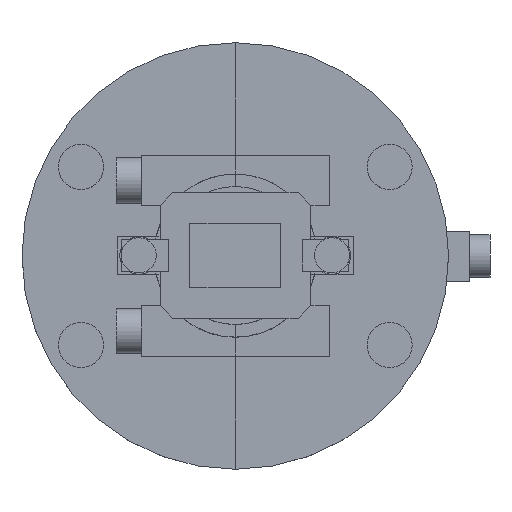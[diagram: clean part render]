
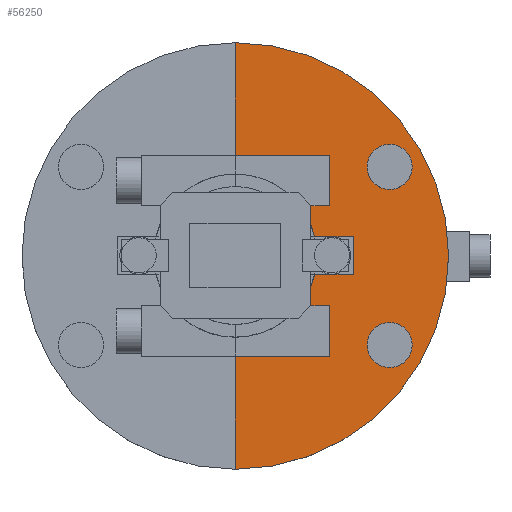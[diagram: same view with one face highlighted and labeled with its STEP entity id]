
A CAD part, top view. The second image highlights one B-rep face of the part: STEP entity #56250.
In plain terms, the highlighted planar face has unit normal (0, 0, 1).
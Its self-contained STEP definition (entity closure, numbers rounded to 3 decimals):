
#54003 = PLANE('',#54004);
#54004 = AXIS2_PLACEMENT_3D('',#54005,#54006,#54007);
#54005 = CARTESIAN_POINT('',(0.,-60.,-70.));
#54006 = DIRECTION('',(1.,0.,0.));
#54007 = DIRECTION('',(0.,0.,1.));
#54117 = PLANE('',#54118);
#54118 = AXIS2_PLACEMENT_3D('',#54119,#54120,#54121);
#54119 = CARTESIAN_POINT('',(0.,-60.,-70.));
#54120 = DIRECTION('',(1.,0.,0.));
#54121 = DIRECTION('',(0.,0.,1.));
#54962 = VERTEX_POINT('',#54963);
#54963 = CARTESIAN_POINT('',(0.,17.,3.));
#54977 = CYLINDRICAL_SURFACE('',#54978,17.);
#54978 = AXIS2_PLACEMENT_3D('',#54979,#54980,#54981);
#54979 = CARTESIAN_POINT('',(0.,0.,1.5));
#54980 = DIRECTION('',(0.,0.,1.));
#54981 = DIRECTION('',(1.,0.,-0.));
#54988 = EDGE_CURVE('',#54989,#54962,#54991,.T.);
#54989 = VERTEX_POINT('',#54990);
#54990 = CARTESIAN_POINT('',(0.,6.5,3.));
#54991 = SURFACE_CURVE('',#54992,(#54996,#55003),.PCURVE_S1.);
#54992 = LINE('',#54993,#54994);
#54993 = CARTESIAN_POINT('',(0.,-30.,3.));
#54994 = VECTOR('',#54995,1.);
#54995 = DIRECTION('',(0.,1.,0.));
#54996 = PCURVE('',#54003,#54997);
#54997 = DEFINITIONAL_REPRESENTATION('',(#54998),#55002);
#54998 = LINE('',#54999,#55000);
#54999 = CARTESIAN_POINT('',(73.,-30.));
#55000 = VECTOR('',#55001,1.);
#55001 = DIRECTION('',(0.,-1.));
#55002 = ( GEOMETRIC_REPRESENTATION_CONTEXT(2) 
PARAMETRIC_REPRESENTATION_CONTEXT() REPRESENTATION_CONTEXT('2D SPACE',''
  ) );
#55003 = PCURVE('',#55004,#55009);
#55004 = PLANE('',#55005);
#55005 = AXIS2_PLACEMENT_3D('',#55006,#55007,#55008);
#55006 = CARTESIAN_POINT('',(0.,0.,3.));
#55007 = DIRECTION('',(0.,0.,1.));
#55008 = DIRECTION('',(1.,0.,-0.));
#55009 = DEFINITIONAL_REPRESENTATION('',(#55010),#55014);
#55010 = LINE('',#55011,#55012);
#55011 = CARTESIAN_POINT('',(0.,-30.));
#55012 = VECTOR('',#55013,1.);
#55013 = DIRECTION('',(0.,1.));
#55014 = ( GEOMETRIC_REPRESENTATION_CONTEXT(2) 
PARAMETRIC_REPRESENTATION_CONTEXT() REPRESENTATION_CONTEXT('2D SPACE',''
  ) );
#55030 = CYLINDRICAL_SURFACE('',#55031,6.5);
#55031 = AXIS2_PLACEMENT_3D('',#55032,#55033,#55034);
#55032 = CARTESIAN_POINT('',(0.,0.,1.5));
#55033 = DIRECTION('',(0.,0.,1.));
#55034 = DIRECTION('',(1.,0.,-0.));
#55164 = CYLINDRICAL_SURFACE('',#55165,6.5);
#55165 = AXIS2_PLACEMENT_3D('',#55166,#55167,#55168);
#55166 = CARTESIAN_POINT('',(0.,0.,1.5));
#55167 = DIRECTION('',(0.,0.,1.));
#55168 = DIRECTION('',(1.,0.,-0.));
#55182 = VERTEX_POINT('',#55183);
#55183 = CARTESIAN_POINT('',(0.,-6.5,3.));
#55203 = EDGE_CURVE('',#55204,#55182,#55206,.T.);
#55204 = VERTEX_POINT('',#55205);
#55205 = CARTESIAN_POINT('',(0.,-17.,3.));
#55206 = SURFACE_CURVE('',#55207,(#55211,#55218),.PCURVE_S1.);
#55207 = LINE('',#55208,#55209);
#55208 = CARTESIAN_POINT('',(0.,-30.,3.));
#55209 = VECTOR('',#55210,1.);
#55210 = DIRECTION('',(0.,1.,0.));
#55211 = PCURVE('',#54117,#55212);
#55212 = DEFINITIONAL_REPRESENTATION('',(#55213),#55217);
#55213 = LINE('',#55214,#55215);
#55214 = CARTESIAN_POINT('',(73.,-30.));
#55215 = VECTOR('',#55216,1.);
#55216 = DIRECTION('',(0.,-1.));
#55217 = ( GEOMETRIC_REPRESENTATION_CONTEXT(2) 
PARAMETRIC_REPRESENTATION_CONTEXT() REPRESENTATION_CONTEXT('2D SPACE',''
  ) );
#55218 = PCURVE('',#55004,#55219);
#55219 = DEFINITIONAL_REPRESENTATION('',(#55220),#55224);
#55220 = LINE('',#55221,#55222);
#55221 = CARTESIAN_POINT('',(0.,-30.));
#55222 = VECTOR('',#55223,1.);
#55223 = DIRECTION('',(0.,1.));
#55224 = ( GEOMETRIC_REPRESENTATION_CONTEXT(2) 
PARAMETRIC_REPRESENTATION_CONTEXT() REPRESENTATION_CONTEXT('2D SPACE',''
  ) );
#55242 = CYLINDRICAL_SURFACE('',#55243,17.);
#55243 = AXIS2_PLACEMENT_3D('',#55244,#55245,#55246);
#55244 = CARTESIAN_POINT('',(0.,0.,1.5));
#55245 = DIRECTION('',(0.,0.,1.));
#55246 = DIRECTION('',(1.,0.,-0.));
#56205 = VERTEX_POINT('',#56206);
#56206 = CARTESIAN_POINT('',(6.5,0.,3.));
#56227 = EDGE_CURVE('',#56205,#54989,#56228,.T.);
#56228 = SURFACE_CURVE('',#56229,(#56234,#56241),.PCURVE_S1.);
#56229 = CIRCLE('',#56230,6.5);
#56230 = AXIS2_PLACEMENT_3D('',#56231,#56232,#56233);
#56231 = CARTESIAN_POINT('',(0.,0.,3.));
#56232 = DIRECTION('',(0.,0.,1.));
#56233 = DIRECTION('',(1.,0.,-0.));
#56234 = PCURVE('',#55030,#56235);
#56235 = DEFINITIONAL_REPRESENTATION('',(#56236),#56240);
#56236 = LINE('',#56237,#56238);
#56237 = CARTESIAN_POINT('',(0.,1.5));
#56238 = VECTOR('',#56239,1.);
#56239 = DIRECTION('',(1.,0.));
#56240 = ( GEOMETRIC_REPRESENTATION_CONTEXT(2) 
PARAMETRIC_REPRESENTATION_CONTEXT() REPRESENTATION_CONTEXT('2D SPACE',''
  ) );
#56241 = PCURVE('',#55004,#56242);
#56242 = DEFINITIONAL_REPRESENTATION('',(#56243),#56247);
#56243 = CIRCLE('',#56244,6.5);
#56244 = AXIS2_PLACEMENT_2D('',#56245,#56246);
#56245 = CARTESIAN_POINT('',(0.,0.));
#56246 = DIRECTION('',(1.,0.));
#56247 = ( GEOMETRIC_REPRESENTATION_CONTEXT(2) 
PARAMETRIC_REPRESENTATION_CONTEXT() REPRESENTATION_CONTEXT('2D SPACE',''
  ) );
#56250 = ADVANCED_FACE('',(#56251,#56324,#56355),#55004,.T.);
#56251 = FACE_BOUND('',#56252,.T.);
#56252 = EDGE_LOOP('',(#56253,#56277,#56299,#56300,#56301,#56323));
#56253 = ORIENTED_EDGE('',*,*,#56254,.T.);
#56254 = EDGE_CURVE('',#55204,#56255,#56257,.T.);
#56255 = VERTEX_POINT('',#56256);
#56256 = CARTESIAN_POINT('',(17.,0.,3.));
#56257 = SURFACE_CURVE('',#56258,(#56263,#56270),.PCURVE_S1.);
#56258 = CIRCLE('',#56259,17.);
#56259 = AXIS2_PLACEMENT_3D('',#56260,#56261,#56262);
#56260 = CARTESIAN_POINT('',(0.,0.,3.));
#56261 = DIRECTION('',(0.,0.,1.));
#56262 = DIRECTION('',(1.,0.,-0.));
#56263 = PCURVE('',#55004,#56264);
#56264 = DEFINITIONAL_REPRESENTATION('',(#56265),#56269);
#56265 = CIRCLE('',#56266,17.);
#56266 = AXIS2_PLACEMENT_2D('',#56267,#56268);
#56267 = CARTESIAN_POINT('',(0.,0.));
#56268 = DIRECTION('',(1.,0.));
#56269 = ( GEOMETRIC_REPRESENTATION_CONTEXT(2) 
PARAMETRIC_REPRESENTATION_CONTEXT() REPRESENTATION_CONTEXT('2D SPACE',''
  ) );
#56270 = PCURVE('',#55242,#56271);
#56271 = DEFINITIONAL_REPRESENTATION('',(#56272),#56276);
#56272 = LINE('',#56273,#56274);
#56273 = CARTESIAN_POINT('',(0.,1.5));
#56274 = VECTOR('',#56275,1.);
#56275 = DIRECTION('',(1.,0.));
#56276 = ( GEOMETRIC_REPRESENTATION_CONTEXT(2) 
PARAMETRIC_REPRESENTATION_CONTEXT() REPRESENTATION_CONTEXT('2D SPACE',''
  ) );
#56277 = ORIENTED_EDGE('',*,*,#56278,.T.);
#56278 = EDGE_CURVE('',#56255,#54962,#56279,.T.);
#56279 = SURFACE_CURVE('',#56280,(#56285,#56292),.PCURVE_S1.);
#56280 = CIRCLE('',#56281,17.);
#56281 = AXIS2_PLACEMENT_3D('',#56282,#56283,#56284);
#56282 = CARTESIAN_POINT('',(0.,0.,3.));
#56283 = DIRECTION('',(0.,0.,1.));
#56284 = DIRECTION('',(1.,0.,-0.));
#56285 = PCURVE('',#55004,#56286);
#56286 = DEFINITIONAL_REPRESENTATION('',(#56287),#56291);
#56287 = CIRCLE('',#56288,17.);
#56288 = AXIS2_PLACEMENT_2D('',#56289,#56290);
#56289 = CARTESIAN_POINT('',(0.,0.));
#56290 = DIRECTION('',(1.,0.));
#56291 = ( GEOMETRIC_REPRESENTATION_CONTEXT(2) 
PARAMETRIC_REPRESENTATION_CONTEXT() REPRESENTATION_CONTEXT('2D SPACE',''
  ) );
#56292 = PCURVE('',#54977,#56293);
#56293 = DEFINITIONAL_REPRESENTATION('',(#56294),#56298);
#56294 = LINE('',#56295,#56296);
#56295 = CARTESIAN_POINT('',(0.,1.5));
#56296 = VECTOR('',#56297,1.);
#56297 = DIRECTION('',(1.,0.));
#56298 = ( GEOMETRIC_REPRESENTATION_CONTEXT(2) 
PARAMETRIC_REPRESENTATION_CONTEXT() REPRESENTATION_CONTEXT('2D SPACE',''
  ) );
#56299 = ORIENTED_EDGE('',*,*,#54988,.F.);
#56300 = ORIENTED_EDGE('',*,*,#56227,.F.);
#56301 = ORIENTED_EDGE('',*,*,#56302,.F.);
#56302 = EDGE_CURVE('',#55182,#56205,#56303,.T.);
#56303 = SURFACE_CURVE('',#56304,(#56309,#56316),.PCURVE_S1.);
#56304 = CIRCLE('',#56305,6.5);
#56305 = AXIS2_PLACEMENT_3D('',#56306,#56307,#56308);
#56306 = CARTESIAN_POINT('',(0.,0.,3.));
#56307 = DIRECTION('',(0.,0.,1.));
#56308 = DIRECTION('',(1.,0.,-0.));
#56309 = PCURVE('',#55004,#56310);
#56310 = DEFINITIONAL_REPRESENTATION('',(#56311),#56315);
#56311 = CIRCLE('',#56312,6.5);
#56312 = AXIS2_PLACEMENT_2D('',#56313,#56314);
#56313 = CARTESIAN_POINT('',(0.,0.));
#56314 = DIRECTION('',(1.,0.));
#56315 = ( GEOMETRIC_REPRESENTATION_CONTEXT(2) 
PARAMETRIC_REPRESENTATION_CONTEXT() REPRESENTATION_CONTEXT('2D SPACE',''
  ) );
#56316 = PCURVE('',#55164,#56317);
#56317 = DEFINITIONAL_REPRESENTATION('',(#56318),#56322);
#56318 = LINE('',#56319,#56320);
#56319 = CARTESIAN_POINT('',(0.,1.5));
#56320 = VECTOR('',#56321,1.);
#56321 = DIRECTION('',(1.,0.));
#56322 = ( GEOMETRIC_REPRESENTATION_CONTEXT(2) 
PARAMETRIC_REPRESENTATION_CONTEXT() REPRESENTATION_CONTEXT('2D SPACE',''
  ) );
#56323 = ORIENTED_EDGE('',*,*,#55203,.F.);
#56324 = FACE_BOUND('',#56325,.T.);
#56325 = EDGE_LOOP('',(#56326));
#56326 = ORIENTED_EDGE('',*,*,#56327,.F.);
#56327 = EDGE_CURVE('',#56328,#56328,#56330,.T.);
#56328 = VERTEX_POINT('',#56329);
#56329 = CARTESIAN_POINT('',(13.4,-7.1,3.));
#56330 = SURFACE_CURVE('',#56331,(#56336,#56343),.PCURVE_S1.);
#56331 = CIRCLE('',#56332,1.1);
#56332 = AXIS2_PLACEMENT_3D('',#56333,#56334,#56335);
#56333 = CARTESIAN_POINT('',(12.3,-7.1,3.));
#56334 = DIRECTION('',(0.,0.,1.));
#56335 = DIRECTION('',(1.,0.,-0.));
#56336 = PCURVE('',#55004,#56337);
#56337 = DEFINITIONAL_REPRESENTATION('',(#56338),#56342);
#56338 = CIRCLE('',#56339,1.1);
#56339 = AXIS2_PLACEMENT_2D('',#56340,#56341);
#56340 = CARTESIAN_POINT('',(12.3,-7.1));
#56341 = DIRECTION('',(1.,0.));
#56342 = ( GEOMETRIC_REPRESENTATION_CONTEXT(2) 
PARAMETRIC_REPRESENTATION_CONTEXT() REPRESENTATION_CONTEXT('2D SPACE',''
  ) );
#56343 = PCURVE('',#56344,#56349);
#56344 = CYLINDRICAL_SURFACE('',#56345,1.1);
#56345 = AXIS2_PLACEMENT_3D('',#56346,#56347,#56348);
#56346 = CARTESIAN_POINT('',(12.3,-7.1,1.4));
#56347 = DIRECTION('',(0.,0.,1.));
#56348 = DIRECTION('',(1.,0.,-0.));
#56349 = DEFINITIONAL_REPRESENTATION('',(#56350),#56354);
#56350 = LINE('',#56351,#56352);
#56351 = CARTESIAN_POINT('',(0.,1.6));
#56352 = VECTOR('',#56353,1.);
#56353 = DIRECTION('',(1.,0.));
#56354 = ( GEOMETRIC_REPRESENTATION_CONTEXT(2) 
PARAMETRIC_REPRESENTATION_CONTEXT() REPRESENTATION_CONTEXT('2D SPACE',''
  ) );
#56355 = FACE_BOUND('',#56356,.T.);
#56356 = EDGE_LOOP('',(#56357));
#56357 = ORIENTED_EDGE('',*,*,#56358,.F.);
#56358 = EDGE_CURVE('',#56359,#56359,#56361,.T.);
#56359 = VERTEX_POINT('',#56360);
#56360 = CARTESIAN_POINT('',(13.4,7.1,3.));
#56361 = SURFACE_CURVE('',#56362,(#56367,#56374),.PCURVE_S1.);
#56362 = CIRCLE('',#56363,1.1);
#56363 = AXIS2_PLACEMENT_3D('',#56364,#56365,#56366);
#56364 = CARTESIAN_POINT('',(12.3,7.1,3.));
#56365 = DIRECTION('',(0.,0.,1.));
#56366 = DIRECTION('',(1.,0.,-0.));
#56367 = PCURVE('',#55004,#56368);
#56368 = DEFINITIONAL_REPRESENTATION('',(#56369),#56373);
#56369 = CIRCLE('',#56370,1.1);
#56370 = AXIS2_PLACEMENT_2D('',#56371,#56372);
#56371 = CARTESIAN_POINT('',(12.3,7.1));
#56372 = DIRECTION('',(1.,0.));
#56373 = ( GEOMETRIC_REPRESENTATION_CONTEXT(2) 
PARAMETRIC_REPRESENTATION_CONTEXT() REPRESENTATION_CONTEXT('2D SPACE',''
  ) );
#56374 = PCURVE('',#56375,#56380);
#56375 = CYLINDRICAL_SURFACE('',#56376,1.1);
#56376 = AXIS2_PLACEMENT_3D('',#56377,#56378,#56379);
#56377 = CARTESIAN_POINT('',(12.3,7.1,1.4));
#56378 = DIRECTION('',(0.,0.,1.));
#56379 = DIRECTION('',(1.,0.,-0.));
#56380 = DEFINITIONAL_REPRESENTATION('',(#56381),#56385);
#56381 = LINE('',#56382,#56383);
#56382 = CARTESIAN_POINT('',(0.,1.6));
#56383 = VECTOR('',#56384,1.);
#56384 = DIRECTION('',(1.,0.));
#56385 = ( GEOMETRIC_REPRESENTATION_CONTEXT(2) 
PARAMETRIC_REPRESENTATION_CONTEXT() REPRESENTATION_CONTEXT('2D SPACE',''
  ) );
